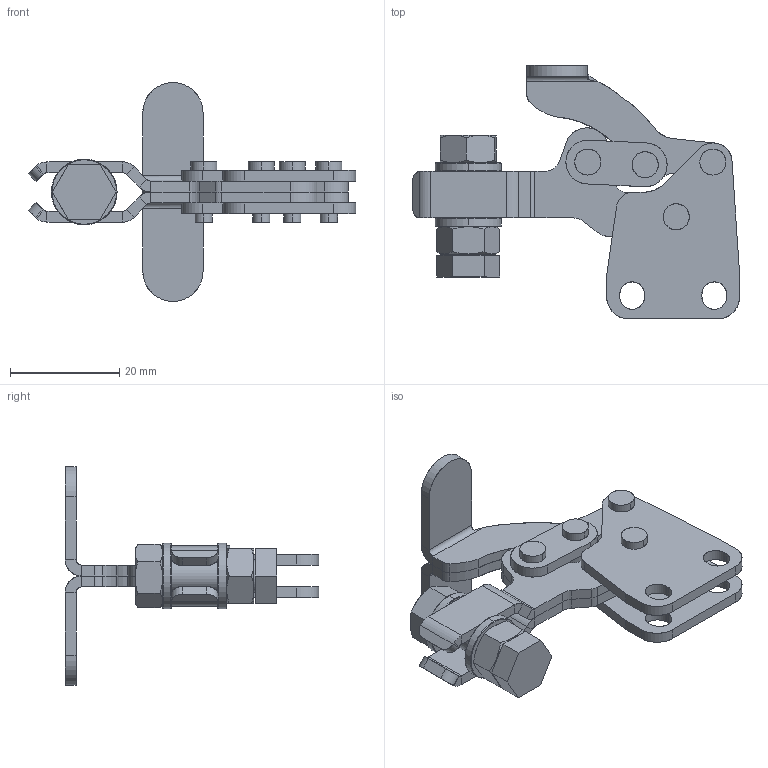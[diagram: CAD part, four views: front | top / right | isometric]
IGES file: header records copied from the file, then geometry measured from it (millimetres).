
Start section: SolidWorks IGES file using analytic representation for surfaces
Global section: file name: C:\Projetos\Grampos\KF-102\KF-102 R\KF-102 R.IGS; native system: SolidWorks 2015; preprocessor: SolidWorks 2015; author: Ricardo; date: 170914.142029; units: millimetre
Bounding box: 59.8 x 46.33 x 39.99 mm (x, y, z)
Surface area: 11333.1 mm2 (no closed solid volume)
Topology: 0 solids, 0 shells, 353 faces, 4956 edges, 4956 vertices
Faces by surface type: revolution 194, bspline 159
